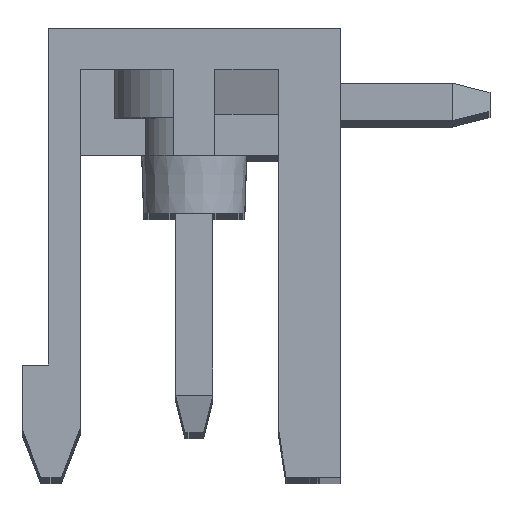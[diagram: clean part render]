
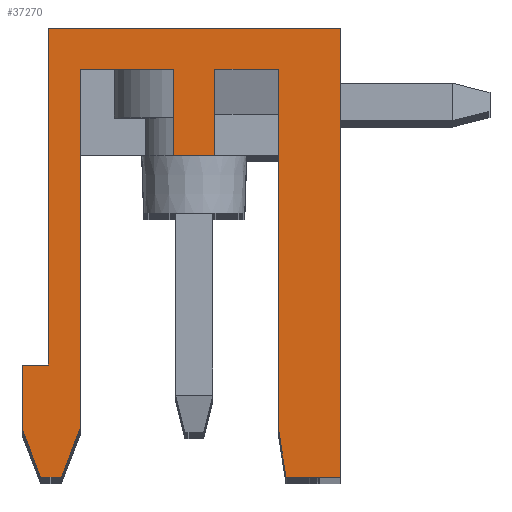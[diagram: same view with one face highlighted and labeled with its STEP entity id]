
A CAD part, top view. The second image highlights one B-rep face of the part: STEP entity #37270.
In plain terms, the highlighted planar face has unit normal (0, 0, 1).
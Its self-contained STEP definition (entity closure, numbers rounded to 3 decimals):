
#237 = VECTOR ( 'NONE', #1414, 1000. ) ;
#254 = DIRECTION ( 'NONE',  ( 1., 0., 0. ) ) ;
#1023 = ORIENTED_EDGE ( 'NONE', *, *, #36079, .T. ) ;
#1133 = EDGE_CURVE ( 'NONE', #49451, #4465, #8974, .T. ) ;
#1297 = VECTOR ( 'NONE', #22995, 1000. ) ;
#1414 = DIRECTION ( 'NONE',  ( -1., 0., 0. ) ) ;
#2079 = VERTEX_POINT ( 'NONE', #17516 ) ;
#2493 = ORIENTED_EDGE ( 'NONE', *, *, #27716, .F. ) ;
#2613 = CARTESIAN_POINT ( 'NONE',  ( 2.25, 1.3, 101.6 ) ) ;
#2941 = ORIENTED_EDGE ( 'NONE', *, *, #25907, .T. ) ;
#3072 = CARTESIAN_POINT ( 'NONE',  ( 2.25, 10.9, 101.6 ) ) ;
#3312 = DIRECTION ( 'NONE',  ( 0., -1., 0. ) ) ;
#3612 = VERTEX_POINT ( 'NONE', #5080 ) ;
#3821 = EDGE_CURVE ( 'NONE', #20878, #3612, #34765, .T. ) ;
#4135 = CARTESIAN_POINT ( 'NONE',  ( -0.55, 10.9, 101.6 ) ) ;
#4465 = VERTEX_POINT ( 'NONE', #14549 ) ;
#5080 = CARTESIAN_POINT ( 'NONE',  ( 3.9, 0., 101.6 ) ) ;
#5091 = VECTOR ( 'NONE', #9805, 1000. ) ;
#5181 = CARTESIAN_POINT ( 'NONE',  ( 2.25, 10.9, 101.6 ) ) ;
#5351 = ORIENTED_EDGE ( 'NONE', *, *, #42145, .T. ) ;
#6555 = DIRECTION ( 'NONE',  ( 0., 0., 1. ) ) ;
#6678 = LINE ( 'NONE', #17792, #45018 ) ;
#6717 = ORIENTED_EDGE ( 'NONE', *, *, #1133, .F. ) ;
#6790 = EDGE_CURVE ( 'NONE', #32177, #38604, #16004, .T. ) ;
#7232 = DIRECTION ( 'NONE',  ( 0., -1., 0. ) ) ;
#7612 = LINE ( 'NONE', #38579, #1297 ) ;
#7739 = VECTOR ( 'NONE', #33921, 1000. ) ;
#7848 = VECTOR ( 'NONE', #17820, 1000. ) ;
#8264 = VECTOR ( 'NONE', #254, 1000. ) ;
#8971 = CARTESIAN_POINT ( 'NONE',  ( -4.1, 0., 101.6 ) ) ;
#8974 = LINE ( 'NONE', #16574, #237 ) ;
#9308 = EDGE_CURVE ( 'NONE', #44308, #14754, #18481, .T. ) ;
#9319 = LINE ( 'NONE', #32729, #5091 ) ;
#9485 = CARTESIAN_POINT ( 'NONE',  ( -3.9, 3., 101.6 ) ) ;
#9805 = DIRECTION ( 'NONE',  ( -1., 0., 0. ) ) ;
#10529 = EDGE_CURVE ( 'NONE', #3612, #23013, #7612, .T. ) ;
#10697 = VECTOR ( 'NONE', #38013, 1000. ) ;
#10859 = ORIENTED_EDGE ( 'NONE', *, *, #17611, .T. ) ;
#11010 = EDGE_LOOP ( 'NONE', ( #12935, #16073, #5351, #19021, #42381, #2493, #46865, #43669, #27427, #6717, #10859, #46039, #2941, #1023, #33229, #36833, #46659 ) ) ;
#11326 = CARTESIAN_POINT ( 'NONE',  ( -10.2, 16.267, 101.6 ) ) ;
#11431 = CARTESIAN_POINT ( 'NONE',  ( 2.45, 0., 101.6 ) ) ;
#11889 = VERTEX_POINT ( 'NONE', #41314 ) ;
#12095 = CARTESIAN_POINT ( 'NONE',  ( 2.25, 1.3, 101.6 ) ) ;
#12112 = CARTESIAN_POINT ( 'NONE',  ( 2.45, 0., 101.6 ) ) ;
#12613 = DIRECTION ( 'NONE',  ( 0., -1., 0. ) ) ;
#12935 = ORIENTED_EDGE ( 'NONE', *, *, #10529, .T. ) ;
#13229 = VECTOR ( 'NONE', #31104, 1000. ) ;
#14303 = VERTEX_POINT ( 'NONE', #43248 ) ;
#14549 = CARTESIAN_POINT ( 'NONE',  ( -3.05, 10.9, 101.6 ) ) ;
#14754 = VERTEX_POINT ( 'NONE', #2613 ) ;
#14865 = DIRECTION ( 'NONE',  ( 1., 0., 0. ) ) ;
#14917 = CARTESIAN_POINT ( 'NONE',  ( -3.05, 1.3, 101.6 ) ) ;
#14919 = VECTOR ( 'NONE', #7232, 1000. ) ;
#15617 = VECTOR ( 'NONE', #24621, 1000. ) ;
#16004 = LINE ( 'NONE', #47435, #13229 ) ;
#16073 = ORIENTED_EDGE ( 'NONE', *, *, #21592, .T. ) ;
#16574 = CARTESIAN_POINT ( 'NONE',  ( -0.55, 10.9, 101.6 ) ) ;
#17516 = CARTESIAN_POINT ( 'NONE',  ( 0.55, 10.9, 101.6 ) ) ;
#17611 = EDGE_CURVE ( 'NONE', #49451, #49074, #17818, .T. ) ;
#17792 = CARTESIAN_POINT ( 'NONE',  ( -3.05, 1.3, 101.6 ) ) ;
#17818 = LINE ( 'NONE', #40711, #49867 ) ;
#17820 = DIRECTION ( 'NONE',  ( -1., 0., 0. ) ) ;
#18481 = LINE ( 'NONE', #3072, #27015 ) ;
#19021 = ORIENTED_EDGE ( 'NONE', *, *, #27375, .T. ) ;
#19294 = LINE ( 'NONE', #23798, #39074 ) ;
#19471 = VERTEX_POINT ( 'NONE', #34828 ) ;
#19618 = VERTEX_POINT ( 'NONE', #14917 ) ;
#20350 = VERTEX_POINT ( 'NONE', #20811 ) ;
#20587 = CARTESIAN_POINT ( 'NONE',  ( -0.55, 8.6, 101.6 ) ) ;
#20811 = CARTESIAN_POINT ( 'NONE',  ( -4.6, 3., 101.6 ) ) ;
#20878 = VERTEX_POINT ( 'NONE', #11431 ) ;
#21592 = EDGE_CURVE ( 'NONE', #23013, #11889, #9319, .T. ) ;
#22655 = EDGE_CURVE ( 'NONE', #4465, #19618, #47341, .T. ) ;
#22995 = DIRECTION ( 'NONE',  ( 0., 1., 0. ) ) ;
#23013 = VERTEX_POINT ( 'NONE', #35960 ) ;
#23290 = EDGE_CURVE ( 'NONE', #20350, #14303, #41729, .T. ) ;
#23798 = CARTESIAN_POINT ( 'NONE',  ( 0.55, 8.6, 101.6 ) ) ;
#24414 = VECTOR ( 'NONE', #28825, 1000. ) ;
#24621 = DIRECTION ( 'NONE',  ( 0.152, -0.988, 0. ) ) ;
#25508 = CARTESIAN_POINT ( 'NONE',  ( -4.1, 0., 101.6 ) ) ;
#25907 = EDGE_CURVE ( 'NONE', #19471, #2079, #19294, .T. ) ;
#26705 = CARTESIAN_POINT ( 'NONE',  ( -3.9, 12., 101.6 ) ) ;
#26959 = LINE ( 'NONE', #26705, #10697 ) ;
#27015 = VECTOR ( 'NONE', #3312, 1000. ) ;
#27335 = DIRECTION ( 'NONE',  ( 0., 1., 0. ) ) ;
#27375 = EDGE_CURVE ( 'NONE', #28055, #20350, #48010, .T. ) ;
#27427 = ORIENTED_EDGE ( 'NONE', *, *, #22655, .F. ) ;
#27716 = EDGE_CURVE ( 'NONE', #32177, #14303, #36811, .T. ) ;
#28055 = VERTEX_POINT ( 'NONE', #47322 ) ;
#28825 = DIRECTION ( 'NONE',  ( -1., 0., 0. ) ) ;
#29736 = PLANE ( 'NONE',  #49650 ) ;
#31104 = DIRECTION ( 'NONE',  ( 1., 0., 0. ) ) ;
#32177 = VERTEX_POINT ( 'NONE', #8971 ) ;
#32583 = LINE ( 'NONE', #47946, #24414 ) ;
#32729 = CARTESIAN_POINT ( 'NONE',  ( 3.9, 12., 101.6 ) ) ;
#33229 = ORIENTED_EDGE ( 'NONE', *, *, #9308, .T. ) ;
#33374 = DIRECTION ( 'NONE',  ( -0.359, -0.933, 0. ) ) ;
#33921 = DIRECTION ( 'NONE',  ( 1., 0., 0. ) ) ;
#34765 = LINE ( 'NONE', #12112, #8264 ) ;
#34828 = CARTESIAN_POINT ( 'NONE',  ( 0.55, 8.6, 101.6 ) ) ;
#35960 = CARTESIAN_POINT ( 'NONE',  ( 3.9, 12., 101.6 ) ) ;
#36079 = EDGE_CURVE ( 'NONE', #2079, #44308, #49527, .T. ) ;
#36811 = LINE ( 'NONE', #25508, #45662 ) ;
#36833 = ORIENTED_EDGE ( 'NONE', *, *, #45382, .T. ) ;
#37270 = ADVANCED_FACE ( 'NONE', ( #41789 ), #29736, .T. ) ;
#37374 = VECTOR ( 'NONE', #12613, 1000. ) ;
#37561 = LINE ( 'NONE', #12095, #15617 ) ;
#38013 = DIRECTION ( 'NONE',  ( 0., -1., 0. ) ) ;
#38579 = CARTESIAN_POINT ( 'NONE',  ( 3.9, 0., 101.6 ) ) ;
#38604 = VERTEX_POINT ( 'NONE', #42538 ) ;
#39074 = VECTOR ( 'NONE', #27335, 1000. ) ;
#39955 = DIRECTION ( 'NONE',  ( 0., -1., 0. ) ) ;
#39996 = EDGE_CURVE ( 'NONE', #19618, #38604, #6678, .T. ) ;
#40711 = CARTESIAN_POINT ( 'NONE',  ( -0.55, 10.9, 101.6 ) ) ;
#41314 = CARTESIAN_POINT ( 'NONE',  ( -3.9, 12., 101.6 ) ) ;
#41729 = LINE ( 'NONE', #49270, #14919 ) ;
#41789 = FACE_OUTER_BOUND ( 'NONE', #11010, .T. ) ;
#42145 = EDGE_CURVE ( 'NONE', #11889, #28055, #26959, .T. ) ;
#42381 = ORIENTED_EDGE ( 'NONE', *, *, #23290, .T. ) ;
#42538 = CARTESIAN_POINT ( 'NONE',  ( -3.55, 0., 101.6 ) ) ;
#42813 = CARTESIAN_POINT ( 'NONE',  ( -3.05, 10.9, 101.6 ) ) ;
#43248 = CARTESIAN_POINT ( 'NONE',  ( -4.6, 1.3, 101.6 ) ) ;
#43669 = ORIENTED_EDGE ( 'NONE', *, *, #39996, .F. ) ;
#44308 = VERTEX_POINT ( 'NONE', #5181 ) ;
#44699 = EDGE_CURVE ( 'NONE', #19471, #49074, #32583, .T. ) ;
#45018 = VECTOR ( 'NONE', #33374, 1000. ) ;
#45114 = DIRECTION ( 'NONE',  ( -0.359, 0.933, 0. ) ) ;
#45382 = EDGE_CURVE ( 'NONE', #14754, #20878, #37561, .T. ) ;
#45662 = VECTOR ( 'NONE', #45114, 1000. ) ;
#45751 = CARTESIAN_POINT ( 'NONE',  ( 0.55, 10.9, 101.6 ) ) ;
#46039 = ORIENTED_EDGE ( 'NONE', *, *, #44699, .F. ) ;
#46659 = ORIENTED_EDGE ( 'NONE', *, *, #3821, .T. ) ;
#46865 = ORIENTED_EDGE ( 'NONE', *, *, #6790, .T. ) ;
#47322 = CARTESIAN_POINT ( 'NONE',  ( -3.9, 3., 101.6 ) ) ;
#47341 = LINE ( 'NONE', #42813, #37374 ) ;
#47435 = CARTESIAN_POINT ( 'NONE',  ( -4.1, 0., 101.6 ) ) ;
#47946 = CARTESIAN_POINT ( 'NONE',  ( 0.55, 8.6, 101.6 ) ) ;
#48010 = LINE ( 'NONE', #9485, #7848 ) ;
#49074 = VERTEX_POINT ( 'NONE', #20587 ) ;
#49270 = CARTESIAN_POINT ( 'NONE',  ( -4.6, 3., 101.6 ) ) ;
#49451 = VERTEX_POINT ( 'NONE', #4135 ) ;
#49527 = LINE ( 'NONE', #45751, #7739 ) ;
#49650 = AXIS2_PLACEMENT_3D ( 'NONE', #11326, #6555, #14865 ) ;
#49867 = VECTOR ( 'NONE', #39955, 1000. ) ;
